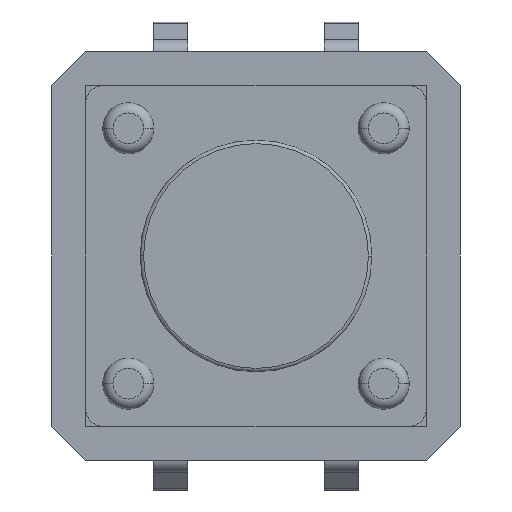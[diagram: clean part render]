
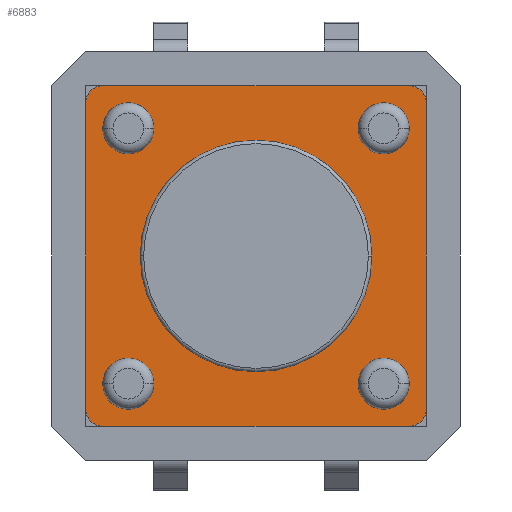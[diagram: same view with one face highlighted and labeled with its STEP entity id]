
A CAD part, front view. The second image highlights one B-rep face of the part: STEP entity #6883.
In plain terms, the highlighted planar face has unit normal (0, -1, 0).
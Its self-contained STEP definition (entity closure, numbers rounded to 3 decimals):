
#6514=CARTESIAN_POINT('',(-3.75,0.,-3.75));
#6515=DIRECTION('',(0.,-1.,0.));
#6516=DIRECTION('',(1.,0.,0.));
#6517=AXIS2_PLACEMENT_3D('',#6514,#6515,#6516);
#6519=CARTESIAN_POINT('',(-3.75,0.,-3.75));
#6520=DIRECTION('',(0.,-1.,0.));
#6521=DIRECTION('',(-1.,0.,0.));
#6522=AXIS2_PLACEMENT_3D('',#6519,#6520,#6521);
#6524=CARTESIAN_POINT('',(3.75,0.,-3.75));
#6525=DIRECTION('',(0.,-1.,0.));
#6526=DIRECTION('',(1.,0.,0.));
#6527=AXIS2_PLACEMENT_3D('',#6524,#6525,#6526);
#6529=CARTESIAN_POINT('',(3.75,0.,-3.75));
#6530=DIRECTION('',(0.,-1.,0.));
#6531=DIRECTION('',(-1.,0.,0.));
#6532=AXIS2_PLACEMENT_3D('',#6529,#6530,#6531);
#6534=CARTESIAN_POINT('',(3.75,0.,3.75));
#6535=DIRECTION('',(0.,-1.,0.));
#6536=DIRECTION('',(1.,0.,0.));
#6537=AXIS2_PLACEMENT_3D('',#6534,#6535,#6536);
#6539=CARTESIAN_POINT('',(3.75,0.,3.75));
#6540=DIRECTION('',(0.,-1.,0.));
#6541=DIRECTION('',(-1.,0.,0.));
#6542=AXIS2_PLACEMENT_3D('',#6539,#6540,#6541);
#6544=CARTESIAN_POINT('',(-3.75,0.,3.75));
#6545=DIRECTION('',(0.,-1.,0.));
#6546=DIRECTION('',(1.,0.,0.));
#6547=AXIS2_PLACEMENT_3D('',#6544,#6545,#6546);
#6549=CARTESIAN_POINT('',(-3.75,0.,3.75));
#6550=DIRECTION('',(0.,-1.,0.));
#6551=DIRECTION('',(-1.,0.,0.));
#6552=AXIS2_PLACEMENT_3D('',#6549,#6550,#6551);
#6554=CARTESIAN_POINT('',(0.,0.,0.));
#6555=DIRECTION('',(0.,-1.,0.));
#6556=DIRECTION('',(1.,0.,0.));
#6557=AXIS2_PLACEMENT_3D('',#6554,#6555,#6556);
#6559=CARTESIAN_POINT('',(0.,0.,0.));
#6560=DIRECTION('',(0.,-1.,0.));
#6561=DIRECTION('',(-1.,0.,0.));
#6562=AXIS2_PLACEMENT_3D('',#6559,#6560,#6561);
#6564=CARTESIAN_POINT('',(-4.5,0.,4.5));
#6565=DIRECTION('',(0.,-1.,0.));
#6566=DIRECTION('',(0.,0.,1.));
#6567=AXIS2_PLACEMENT_3D('',#6564,#6565,#6566);
#6569=DIRECTION('',(1.,0.,0.));
#6570=VECTOR('',#6569,9.);
#6571=CARTESIAN_POINT('',(-4.5,0.,5.));
#6572=LINE('',#6571,#6570);
#6573=CARTESIAN_POINT('',(4.5,0.,4.5));
#6574=DIRECTION('',(0.,-1.,0.));
#6575=DIRECTION('',(1.,0.,0.));
#6576=AXIS2_PLACEMENT_3D('',#6573,#6574,#6575);
#6578=DIRECTION('',(0.,0.,-1.));
#6579=VECTOR('',#6578,9.);
#6580=CARTESIAN_POINT('',(5.,0.,4.5));
#6581=LINE('',#6580,#6579);
#6582=CARTESIAN_POINT('',(4.5,0.,-4.5));
#6583=DIRECTION('',(0.,-1.,0.));
#6584=DIRECTION('',(0.,0.,-1.));
#6585=AXIS2_PLACEMENT_3D('',#6582,#6583,#6584);
#6587=DIRECTION('',(-1.,0.,0.));
#6588=VECTOR('',#6587,9.);
#6589=CARTESIAN_POINT('',(4.5,0.,-5.));
#6590=LINE('',#6589,#6588);
#6591=CARTESIAN_POINT('',(-4.5,0.,-4.5));
#6592=DIRECTION('',(0.,-1.,0.));
#6593=DIRECTION('',(-1.,0.,0.));
#6594=AXIS2_PLACEMENT_3D('',#6591,#6592,#6593);
#6596=DIRECTION('',(0.,0.,1.));
#6597=VECTOR('',#6596,9.);
#6598=CARTESIAN_POINT('',(-5.,0.,-4.5));
#6599=LINE('',#6598,#6597);
#6758=CARTESIAN_POINT('',(-3.5,0.,-3.75));
#6759=CARTESIAN_POINT('',(-4.,0.,-3.75));
#6760=VERTEX_POINT('',#6758);
#6761=VERTEX_POINT('',#6759);
#6762=CARTESIAN_POINT('',(4.,0.,-3.75));
#6763=CARTESIAN_POINT('',(3.5,0.,-3.75));
#6764=VERTEX_POINT('',#6762);
#6765=VERTEX_POINT('',#6763);
#6766=CARTESIAN_POINT('',(4.,0.,3.75));
#6767=CARTESIAN_POINT('',(3.5,0.,3.75));
#6768=VERTEX_POINT('',#6766);
#6769=VERTEX_POINT('',#6767);
#6770=CARTESIAN_POINT('',(-3.5,0.,3.75));
#6771=CARTESIAN_POINT('',(-4.,0.,3.75));
#6772=VERTEX_POINT('',#6770);
#6773=VERTEX_POINT('',#6771);
#6790=CARTESIAN_POINT('',(1.75,0.,0.));
#6791=CARTESIAN_POINT('',(-1.75,0.,0.));
#6792=VERTEX_POINT('',#6790);
#6793=VERTEX_POINT('',#6791);
#6798=CARTESIAN_POINT('',(-4.5,0.,5.));
#6799=CARTESIAN_POINT('',(-5.,0.,4.5));
#6800=VERTEX_POINT('',#6798);
#6801=VERTEX_POINT('',#6799);
#6806=CARTESIAN_POINT('',(5.,0.,4.5));
#6807=CARTESIAN_POINT('',(4.5,0.,5.));
#6808=VERTEX_POINT('',#6806);
#6809=VERTEX_POINT('',#6807);
#6814=CARTESIAN_POINT('',(4.5,0.,-5.));
#6815=CARTESIAN_POINT('',(5.,0.,-4.5));
#6816=VERTEX_POINT('',#6814);
#6817=VERTEX_POINT('',#6815);
#6822=CARTESIAN_POINT('',(-5.,0.,-4.5));
#6823=CARTESIAN_POINT('',(-4.5,0.,-5.));
#6824=VERTEX_POINT('',#6822);
#6825=VERTEX_POINT('',#6823);
#6830=CARTESIAN_POINT('',(0.,0.,0.));
#6831=DIRECTION('',(0.,1.,0.));
#6832=DIRECTION('',(1.,0.,0.));
#6833=AXIS2_PLACEMENT_3D('',#6830,#6831,#6832);
#6834=PLANE('',#6833);
#6836=ORIENTED_EDGE('',*,*,#6835,.F.);
#6838=ORIENTED_EDGE('',*,*,#6837,.T.);
#6840=ORIENTED_EDGE('',*,*,#6839,.F.);
#6842=ORIENTED_EDGE('',*,*,#6841,.T.);
#6844=ORIENTED_EDGE('',*,*,#6843,.F.);
#6846=ORIENTED_EDGE('',*,*,#6845,.T.);
#6848=ORIENTED_EDGE('',*,*,#6847,.F.);
#6850=ORIENTED_EDGE('',*,*,#6849,.T.);
#6851=EDGE_LOOP('',(#6836,#6838,#6840,#6842,#6844,#6846,#6848,#6850));
#6852=FACE_OUTER_BOUND('',#6851,.F.);
#6854=ORIENTED_EDGE('',*,*,#6853,.T.);
#6856=ORIENTED_EDGE('',*,*,#6855,.T.);
#6857=EDGE_LOOP('',(#6854,#6856));
#6858=FACE_BOUND('',#6857,.F.);
#6860=ORIENTED_EDGE('',*,*,#6859,.T.);
#6862=ORIENTED_EDGE('',*,*,#6861,.T.);
#6863=EDGE_LOOP('',(#6860,#6862));
#6864=FACE_BOUND('',#6863,.F.);
#6866=ORIENTED_EDGE('',*,*,#6865,.T.);
#6868=ORIENTED_EDGE('',*,*,#6867,.T.);
#6869=EDGE_LOOP('',(#6866,#6868));
#6870=FACE_BOUND('',#6869,.F.);
#6872=ORIENTED_EDGE('',*,*,#6871,.T.);
#6874=ORIENTED_EDGE('',*,*,#6873,.T.);
#6875=EDGE_LOOP('',(#6872,#6874));
#6876=FACE_BOUND('',#6875,.F.);
#6878=ORIENTED_EDGE('',*,*,#6877,.T.);
#6880=ORIENTED_EDGE('',*,*,#6879,.T.);
#6881=EDGE_LOOP('',(#6878,#6880));
#6882=FACE_BOUND('',#6881,.F.);
#6518=CIRCLE('',#6517,0.25);
#6523=CIRCLE('',#6522,0.25);
#6528=CIRCLE('',#6527,0.25);
#6533=CIRCLE('',#6532,0.25);
#6538=CIRCLE('',#6537,0.25);
#6543=CIRCLE('',#6542,0.25);
#6548=CIRCLE('',#6547,0.25);
#6553=CIRCLE('',#6552,0.25);
#6558=CIRCLE('',#6557,1.75);
#6563=CIRCLE('',#6562,1.75);
#6568=CIRCLE('',#6567,0.5);
#6577=CIRCLE('',#6576,0.5);
#6586=CIRCLE('',#6585,0.5);
#6595=CIRCLE('',#6594,0.5);
#6835=EDGE_CURVE('',#6800,#6801,#6568,.T.);
#6837=EDGE_CURVE('',#6800,#6809,#6572,.T.);
#6839=EDGE_CURVE('',#6808,#6809,#6577,.T.);
#6841=EDGE_CURVE('',#6808,#6817,#6581,.T.);
#6843=EDGE_CURVE('',#6816,#6817,#6586,.T.);
#6845=EDGE_CURVE('',#6816,#6825,#6590,.T.);
#6847=EDGE_CURVE('',#6824,#6825,#6595,.T.);
#6849=EDGE_CURVE('',#6824,#6801,#6599,.T.);
#6853=EDGE_CURVE('',#6764,#6765,#6528,.T.);
#6855=EDGE_CURVE('',#6765,#6764,#6533,.T.);
#6859=EDGE_CURVE('',#6768,#6769,#6538,.T.);
#6861=EDGE_CURVE('',#6769,#6768,#6543,.T.);
#6865=EDGE_CURVE('',#6772,#6773,#6548,.T.);
#6867=EDGE_CURVE('',#6773,#6772,#6553,.T.);
#6871=EDGE_CURVE('',#6792,#6793,#6558,.T.);
#6873=EDGE_CURVE('',#6793,#6792,#6563,.T.);
#6877=EDGE_CURVE('',#6760,#6761,#6518,.T.);
#6879=EDGE_CURVE('',#6761,#6760,#6523,.T.);
#6883=ADVANCED_FACE('',(#6852,#6858,#6864,#6870,#6876,#6882),#6834,.F.);
